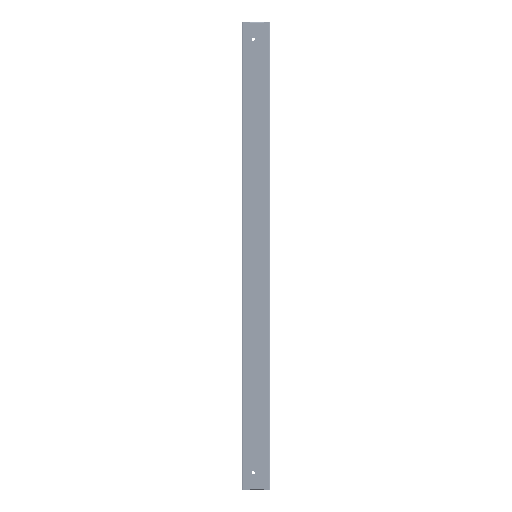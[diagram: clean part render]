
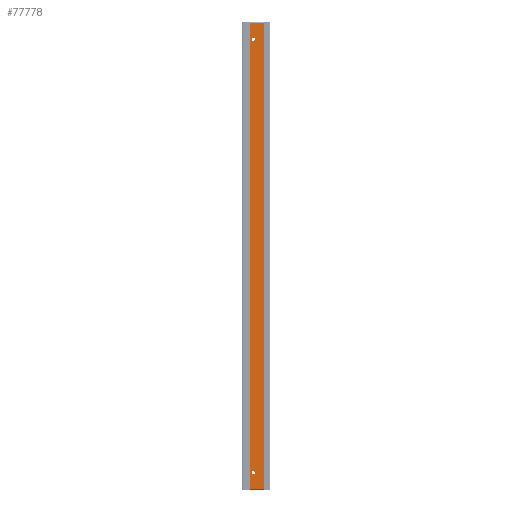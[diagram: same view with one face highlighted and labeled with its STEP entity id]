
A CAD part, left-side view. The second image highlights one B-rep face of the part: STEP entity #77778.
In plain terms, the highlighted planar face has unit normal (-1, 0, 0).
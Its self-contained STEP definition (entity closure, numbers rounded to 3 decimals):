
#3531 = CARTESIAN_POINT ( 'NONE',  ( -28., 18., 202.5 ) ) ;
#4675 = DIRECTION ( 'NONE',  ( 0., 1., 0. ) ) ;
#4701 = LINE ( 'NONE', #3531, #31020 ) ;
#5247 = EDGE_LOOP ( 'NONE', ( #68466, #17730 ) ) ;
#6279 = DIRECTION ( 'NONE',  ( -1., 0., 0. ) ) ;
#6391 = VERTEX_POINT ( 'NONE', #31806 ) ;
#7849 = CARTESIAN_POINT ( 'NONE',  ( -28., 14.8, 188.75 ) ) ;
#8768 = FACE_BOUND ( 'NONE', #64257, .T. ) ;
#9122 = ORIENTED_EDGE ( 'NONE', *, *, #20655, .F. ) ;
#10385 = ORIENTED_EDGE ( 'NONE', *, *, #60934, .T. ) ;
#10943 = AXIS2_PLACEMENT_3D ( 'NONE', #34081, #75992, #40097 ) ;
#11700 = CARTESIAN_POINT ( 'NONE',  ( -28., 14.8, -188.75 ) ) ;
#12344 = EDGE_CURVE ( 'NONE', #30793, #73865, #52689, .T. ) ;
#13361 = EDGE_CURVE ( 'NONE', #33590, #46814, #4701, .T. ) ;
#14398 = CARTESIAN_POINT ( 'NONE',  ( -28., 14.8, 186.25 ) ) ;
#16045 = DIRECTION ( 'NONE',  ( 0., 0., 1. ) ) ;
#16632 = LINE ( 'NONE', #60134, #44729 ) ;
#17042 = ORIENTED_EDGE ( 'NONE', *, *, #13361, .T. ) ;
#17730 = ORIENTED_EDGE ( 'NONE', *, *, #24304, .F. ) ;
#20655 = EDGE_CURVE ( 'NONE', #63768, #6391, #16632, .T. ) ;
#21905 = CARTESIAN_POINT ( 'NONE',  ( -28., 14.8, 187.5 ) ) ;
#23200 = DIRECTION ( 'NONE',  ( -1., 0., 0. ) ) ;
#23492 = AXIS2_PLACEMENT_3D ( 'NONE', #21905, #63836, #27984 ) ;
#24304 = EDGE_CURVE ( 'NONE', #28030, #68089, #67813, .T. ) ;
#27461 = DIRECTION ( 'NONE',  ( 0., 0., -1. ) ) ;
#27897 = PLANE ( 'NONE',  #44629 ) ;
#27984 = DIRECTION ( 'NONE',  ( 0., 0., 1. ) ) ;
#28030 = VERTEX_POINT ( 'NONE', #14398 ) ;
#28456 = AXIS2_PLACEMENT_3D ( 'NONE', #59060, #23200, #65101 ) ;
#30793 = VERTEX_POINT ( 'NONE', #58479 ) ;
#31020 = VECTOR ( 'NONE', #27461, 1000. ) ;
#31806 = CARTESIAN_POINT ( 'NONE',  ( -28., 5.8, -202. ) ) ;
#32013 = AXIS2_PLACEMENT_3D ( 'NONE', #42180, #6279, #48187 ) ;
#33109 = CARTESIAN_POINT ( 'NONE',  ( -28., 18., -202. ) ) ;
#33590 = VERTEX_POINT ( 'NONE', #56232 ) ;
#34081 = CARTESIAN_POINT ( 'NONE',  ( -28., 14.8, -187.5 ) ) ;
#34594 = CARTESIAN_POINT ( 'NONE',  ( -28., 0., 202. ) ) ;
#34819 = CARTESIAN_POINT ( 'NONE',  ( -28., 5.8, -202. ) ) ;
#36290 = DIRECTION ( 'NONE',  ( 0., 0., -1. ) ) ;
#39424 = LINE ( 'NONE', #34819, #67523 ) ;
#39886 = CARTESIAN_POINT ( 'NONE',  ( -28., 0., 202.5 ) ) ;
#40097 = DIRECTION ( 'NONE',  ( 0., 0., 1. ) ) ;
#42180 = CARTESIAN_POINT ( 'NONE',  ( -28., 14.8, 187.5 ) ) ;
#42343 = CARTESIAN_POINT ( 'NONE',  ( -28., 5.8, 202. ) ) ;
#43780 = EDGE_CURVE ( 'NONE', #73865, #30793, #46393, .T. ) ;
#44629 = AXIS2_PLACEMENT_3D ( 'NONE', #39886, #51906, #16045 ) ;
#44729 = VECTOR ( 'NONE', #36290, 1000. ) ;
#45639 = ORIENTED_EDGE ( 'NONE', *, *, #12344, .F. ) ;
#46393 = CIRCLE ( 'NONE', #28456, 1.25 ) ;
#46814 = VERTEX_POINT ( 'NONE', #33109 ) ;
#47219 = CIRCLE ( 'NONE', #32013, 1.25 ) ;
#48187 = DIRECTION ( 'NONE',  ( 0., 0., 1. ) ) ;
#48469 = ORIENTED_EDGE ( 'NONE', *, *, #70213, .T. ) ;
#51906 = DIRECTION ( 'NONE',  ( -1., 0., 0. ) ) ;
#52179 = ORIENTED_EDGE ( 'NONE', *, *, #43780, .F. ) ;
#52689 = CIRCLE ( 'NONE', #10943, 1.25 ) ;
#54670 = EDGE_CURVE ( 'NONE', #68089, #28030, #47219, .T. ) ;
#56232 = CARTESIAN_POINT ( 'NONE',  ( -28., 18., 202. ) ) ;
#56582 = FACE_BOUND ( 'NONE', #5247, .T. ) ;
#57599 = LINE ( 'NONE', #34594, #69788 ) ;
#58479 = CARTESIAN_POINT ( 'NONE',  ( -28., 14.8, -186.25 ) ) ;
#59060 = CARTESIAN_POINT ( 'NONE',  ( -28., 14.8, -187.5 ) ) ;
#60134 = CARTESIAN_POINT ( 'NONE',  ( -28., 5.8, 202.5 ) ) ;
#60934 = EDGE_CURVE ( 'NONE', #63768, #33590, #57599, .T. ) ;
#63768 = VERTEX_POINT ( 'NONE', #42343 ) ;
#63836 = DIRECTION ( 'NONE',  ( -1., 0., 0. ) ) ;
#64257 = EDGE_LOOP ( 'NONE', ( #45639, #52179 ) ) ;
#65101 = DIRECTION ( 'NONE',  ( 0., 0., 1. ) ) ;
#67523 = VECTOR ( 'NONE', #76731, 1000. ) ;
#67813 = CIRCLE ( 'NONE', #23492, 1.25 ) ;
#68089 = VERTEX_POINT ( 'NONE', #7849 ) ;
#68401 = EDGE_LOOP ( 'NONE', ( #9122, #10385, #17042, #48469 ) ) ;
#68466 = ORIENTED_EDGE ( 'NONE', *, *, #54670, .F. ) ;
#69788 = VECTOR ( 'NONE', #4675, 1000. ) ;
#70213 = EDGE_CURVE ( 'NONE', #46814, #6391, #39424, .T. ) ;
#72513 = FACE_OUTER_BOUND ( 'NONE', #68401, .T. ) ;
#73865 = VERTEX_POINT ( 'NONE', #11700 ) ;
#75992 = DIRECTION ( 'NONE',  ( -1., 0., 0. ) ) ;
#76731 = DIRECTION ( 'NONE',  ( 0., -1., 0. ) ) ;
#77778 = ADVANCED_FACE ( 'NONE', ( #56582, #8768, #72513 ), #27897, .T. ) ;
